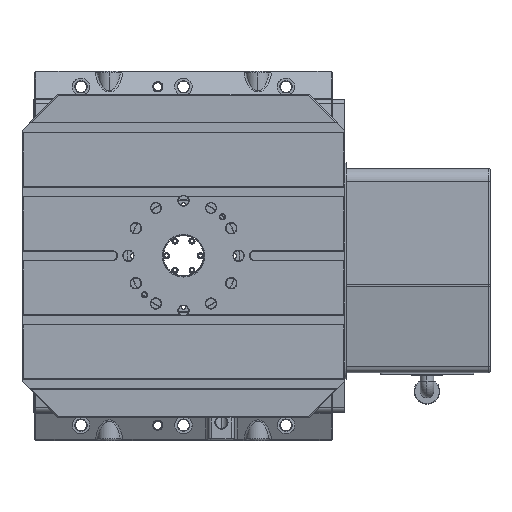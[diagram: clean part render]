
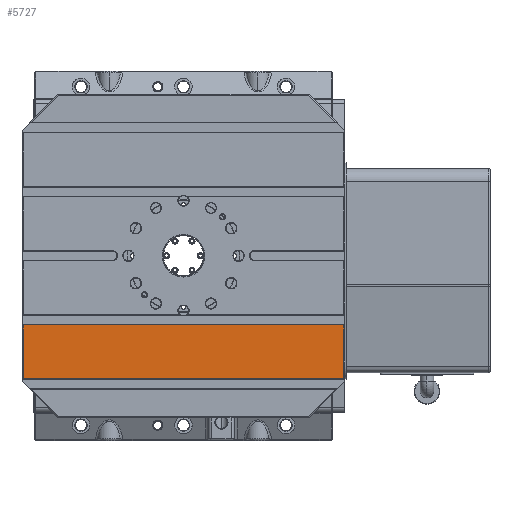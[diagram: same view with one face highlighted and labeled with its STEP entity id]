
A CAD part, top view. The second image highlights one B-rep face of the part: STEP entity #5727.
In plain terms, the highlighted planar face has unit normal (0, 0, 1).
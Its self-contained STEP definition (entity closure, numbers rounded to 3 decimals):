
#777 = ORIENTED_EDGE ( 'NONE', *, *, #28065, .T. ) ;
#957 = AXIS2_PLACEMENT_3D ( 'NONE', #5437, #16460, #6433 ) ;
#1948 = VECTOR ( 'NONE', #16239, 1000. ) ;
#3078 = CARTESIAN_POINT ( 'NONE',  ( -383.578, -56.449, 206. ) ) ;
#5437 = CARTESIAN_POINT ( 'NONE',  ( -70.578, 78.551, 206. ) ) ;
#5626 = LINE ( 'NONE', #16330, #17267 ) ;
#5727 = ADVANCED_FACE ( 'NONE', ( #16848 ), #29318, .F. ) ;
#5830 = DIRECTION ( 'NONE',  ( 1., 0., 0. ) ) ;
#6256 = ORIENTED_EDGE ( 'NONE', *, *, #28834, .T. ) ;
#6433 = DIRECTION ( 'NONE',  ( -1., 0., 0. ) ) ;
#7201 = VERTEX_POINT ( 'NONE', #7572 ) ;
#7548 = VECTOR ( 'NONE', #23021, 1000. ) ;
#7572 = CARTESIAN_POINT ( 'NONE',  ( 242.422, -161.449, 206. ) ) ;
#12690 = CARTESIAN_POINT ( 'NONE',  ( 242.422, 78.551, 206. ) ) ;
#12827 = EDGE_CURVE ( 'NONE', #18876, #7201, #5626, .T. ) ;
#13811 = LINE ( 'NONE', #12690, #7548 ) ;
#15939 = ORIENTED_EDGE ( 'NONE', *, *, #12827, .T. ) ;
#16239 = DIRECTION ( 'NONE',  ( 0., -1., 0. ) ) ;
#16280 = VECTOR ( 'NONE', #29009, 1000. ) ;
#16330 = CARTESIAN_POINT ( 'NONE',  ( -70.578, -161.449, 206. ) ) ;
#16460 = DIRECTION ( 'NONE',  ( 0., 0., -1. ) ) ;
#16848 = FACE_OUTER_BOUND ( 'NONE', #18103, .T. ) ;
#17267 = VECTOR ( 'NONE', #5830, 1000. ) ;
#18103 = EDGE_LOOP ( 'NONE', ( #15939, #777, #6256, #32939 ) ) ;
#18876 = VERTEX_POINT ( 'NONE', #22620 ) ;
#20672 = CARTESIAN_POINT ( 'NONE',  ( 242.422, -56.449, 206. ) ) ;
#21581 = EDGE_CURVE ( 'NONE', #32112, #18876, #26500, .T. ) ;
#22620 = CARTESIAN_POINT ( 'NONE',  ( -383.578, -161.449, 206. ) ) ;
#23021 = DIRECTION ( 'NONE',  ( 0., 1., 0. ) ) ;
#26316 = CARTESIAN_POINT ( 'NONE',  ( -70.578, -56.449, 206. ) ) ;
#26500 = LINE ( 'NONE', #32157, #1948 ) ;
#28065 = EDGE_CURVE ( 'NONE', #7201, #29215, #13811, .T. ) ;
#28834 = EDGE_CURVE ( 'NONE', #29215, #32112, #31267, .T. ) ;
#29009 = DIRECTION ( 'NONE',  ( -1., 0., 0. ) ) ;
#29215 = VERTEX_POINT ( 'NONE', #20672 ) ;
#29318 = PLANE ( 'NONE',  #957 ) ;
#31267 = LINE ( 'NONE', #26316, #16280 ) ;
#32112 = VERTEX_POINT ( 'NONE', #3078 ) ;
#32157 = CARTESIAN_POINT ( 'NONE',  ( -383.578, 78.551, 206. ) ) ;
#32939 = ORIENTED_EDGE ( 'NONE', *, *, #21581, .T. ) ;
